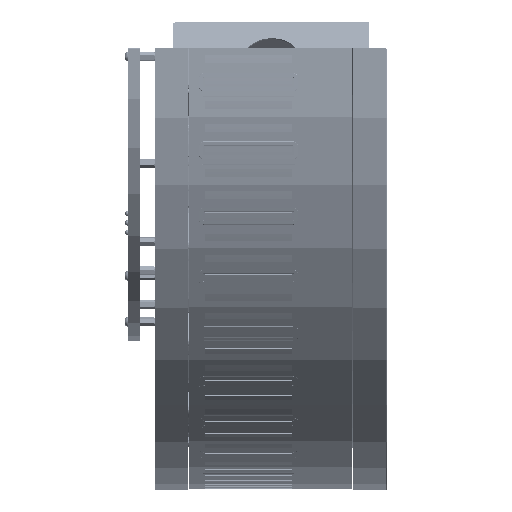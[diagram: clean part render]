
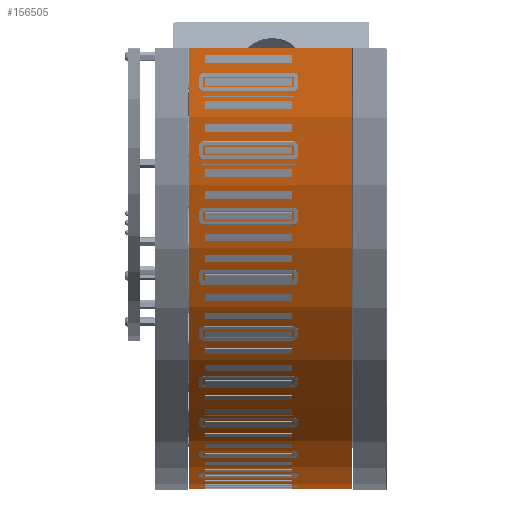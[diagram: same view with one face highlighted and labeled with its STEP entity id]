
A CAD part, left-side view. The second image highlights one B-rep face of the part: STEP entity #156505.
In plain terms, the highlighted cylindrical face has radius 254.5 mm (diameter 509 mm), a partial arc.
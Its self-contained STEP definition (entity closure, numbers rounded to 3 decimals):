
#993 = CARTESIAN_POINT ( 'NONE',  ( -254., 0., -47. ) ) ;
#2036 = DIRECTION ( 'NONE',  ( 0., 0., 1. ) ) ;
#2910 = VERTEX_POINT ( 'NONE', #11511 ) ;
#3761 = CIRCLE ( 'NONE', #134117, 254.5 ) ;
#7884 = DIRECTION ( 'NONE',  ( 0., 0., -1. ) ) ;
#11511 = CARTESIAN_POINT ( 'NONE',  ( 0., 254., -47. ) ) ;
#14251 = VERTEX_POINT ( 'NONE', #111581 ) ;
#28113 = DIRECTION ( 'NONE',  ( 0., -1., 0. ) ) ;
#31657 = CARTESIAN_POINT ( 'NONE',  ( -254., 0., -23. ) ) ;
#33084 = AXIS2_PLACEMENT_3D ( 'NONE', #74900, #2036, #28113 ) ;
#46486 = DIRECTION ( 'NONE',  ( 0., 0., -1. ) ) ;
#59651 = ORIENTED_EDGE ( 'NONE', *, *, #142503, .T. ) ;
#63256 = EDGE_CURVE ( 'NONE', #131419, #2910, #143736, .T. ) ;
#68397 = VECTOR ( 'NONE', #131342, 1000. ) ;
#69391 = LINE ( 'NONE', #31657, #68397 ) ;
#70022 = ORIENTED_EDGE ( 'NONE', *, *, #63256, .T. ) ;
#73414 = DIRECTION ( 'NONE',  ( 0., 1., 0. ) ) ;
#74900 = CARTESIAN_POINT ( 'NONE',  ( 0.5, -0.5, -23. ) ) ;
#76757 = VECTOR ( 'NONE', #46486, 1000. ) ;
#81780 = EDGE_CURVE ( 'NONE', #127746, #2910, #3761, .T. ) ;
#84886 = CARTESIAN_POINT ( 'NONE',  ( 0.5, -0.5, -47. ) ) ;
#90368 = CYLINDRICAL_SURFACE ( 'NONE', #33084, 254.5 ) ;
#91382 = CIRCLE ( 'NONE', #101864, 254.5 ) ;
#93966 = EDGE_LOOP ( 'NONE', ( #161512, #70022, #118793, #59651 ) ) ;
#94594 = CARTESIAN_POINT ( 'NONE',  ( 0., 254., 47. ) ) ;
#101864 = AXIS2_PLACEMENT_3D ( 'NONE', #108037, #158643, #121036 ) ;
#108037 = CARTESIAN_POINT ( 'NONE',  ( 0.5, -0.5, 47. ) ) ;
#109367 = CARTESIAN_POINT ( 'NONE',  ( 0., 254., -23. ) ) ;
#111581 = CARTESIAN_POINT ( 'NONE',  ( -254., 0., 47. ) ) ;
#118793 = ORIENTED_EDGE ( 'NONE', *, *, #81780, .F. ) ;
#121036 = DIRECTION ( 'NONE',  ( 0., -1., 0. ) ) ;
#127746 = VERTEX_POINT ( 'NONE', #993 ) ;
#131342 = DIRECTION ( 'NONE',  ( 0., 0., 1. ) ) ;
#131419 = VERTEX_POINT ( 'NONE', #94594 ) ;
#134117 = AXIS2_PLACEMENT_3D ( 'NONE', #84886, #7884, #73414 ) ;
#142503 = EDGE_CURVE ( 'NONE', #127746, #14251, #69391, .T. ) ;
#143736 = LINE ( 'NONE', #109367, #76757 ) ;
#151546 = EDGE_CURVE ( 'NONE', #131419, #14251, #91382, .T. ) ;
#154942 = FACE_OUTER_BOUND ( 'NONE', #93966, .T. ) ;
#156505 = ADVANCED_FACE ( 'NONE', ( #154942 ), #90368, .T. ) ;
#158643 = DIRECTION ( 'NONE',  ( 0., 0., 1. ) ) ;
#161512 = ORIENTED_EDGE ( 'NONE', *, *, #151546, .F. ) ;
